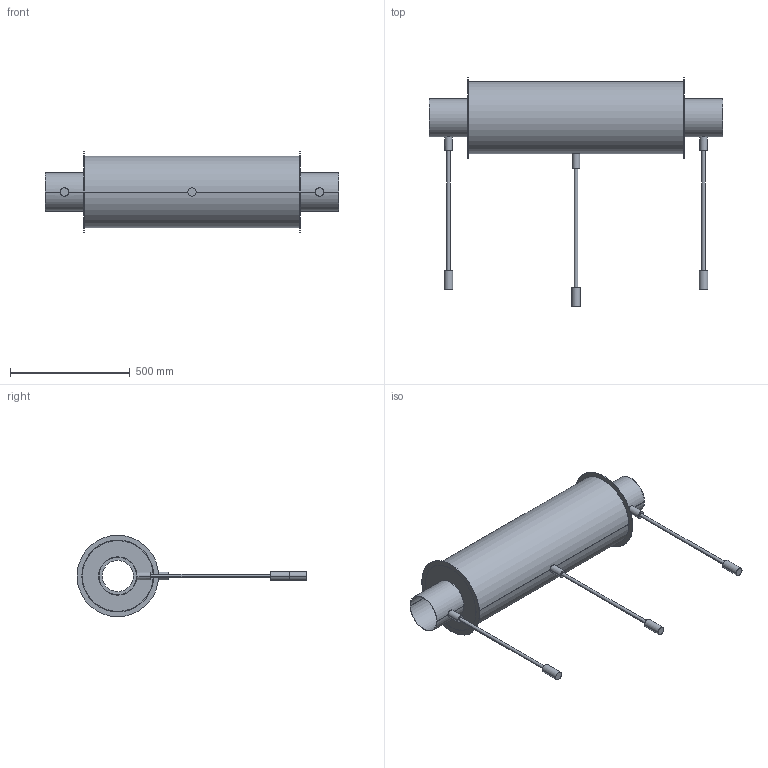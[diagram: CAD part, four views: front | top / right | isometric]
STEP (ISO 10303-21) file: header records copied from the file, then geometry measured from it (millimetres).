
FILE_DESCRIPTION((''),'2;1');
FILE_NAME('52171150','2023-12-12T15:14:35',('hrl'),('HUBER SE'),'CREO PARAMETRIC BY PTC INC, 2023154','CREO PARAMETRIC BY PTC INC, 2023154','');
FILE_SCHEMA(('AUTOMOTIVE_DESIGN { 1 0 10303 214 1 1 1 1 }'));
Length unit declared in the file: millimetre
Products named in the file (1): 52171150
Bounding box: 1225 x 960 x 340 mm (x, y, z)
Volume: 2949399.5 mm3; surface area: 2438726.9 mm2
Topology: 2 solids, 2 shells, 58 faces, 116 edges, 76 vertices
Faces by surface type: cylinder 38, plane 20
Entity records: 2285 total; most frequent: CARTESIAN_POINT 468, DIRECTION 300, ORIENTED_EDGE 232, AXIS2_PLACEMENT_3D 130, EDGE_CURVE 116, COLOUR_RGB 106, VERTEX_POINT 76, EDGE_LOOP 74
